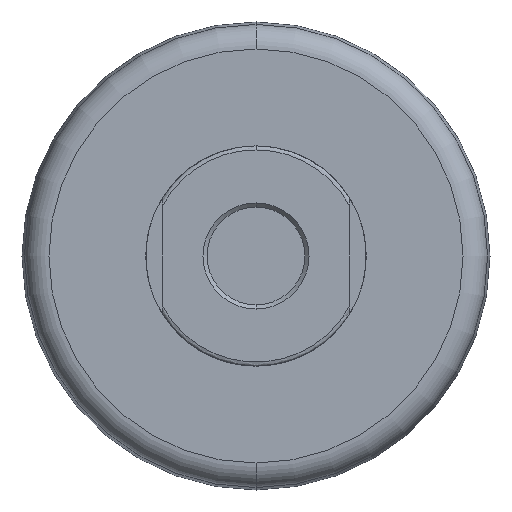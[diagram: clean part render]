
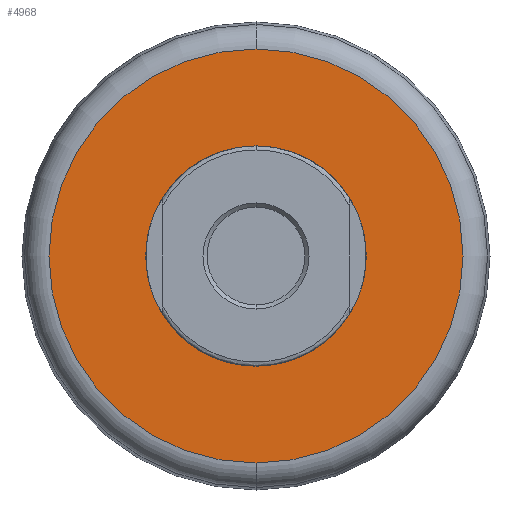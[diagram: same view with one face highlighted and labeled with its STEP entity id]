
A CAD part, front view. The second image highlights one B-rep face of the part: STEP entity #4968.
In plain terms, the highlighted planar face has unit normal (0, -1, 0).
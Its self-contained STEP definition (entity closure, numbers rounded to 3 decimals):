
#190 = ORIENTED_EDGE ( 'NONE', *, *, #1521, .T. ) ;
#398 = CARTESIAN_POINT ( 'NONE',  ( 0., 12., -27. ) ) ;
#495 = CIRCLE ( 'NONE', #4973, 27. ) ;
#720 = EDGE_LOOP ( 'NONE', ( #4416, #1396 ) ) ;
#745 = DIRECTION ( 'NONE',  ( 0., 1., 0. ) ) ;
#871 = DIRECTION ( 'NONE',  ( 0., 1., 0. ) ) ;
#1223 = FACE_OUTER_BOUND ( 'NONE', #720, .T. ) ;
#1258 = ORIENTED_EDGE ( 'NONE', *, *, #3892, .T. ) ;
#1396 = ORIENTED_EDGE ( 'NONE', *, *, #5171, .F. ) ;
#1460 = DIRECTION ( 'NONE',  ( 0., 1., 0. ) ) ;
#1521 = EDGE_CURVE ( 'NONE', #2700, #3526, #495, .T. ) ;
#1810 = DIRECTION ( 'NONE',  ( 0., 0., -1. ) ) ;
#2242 = AXIS2_PLACEMENT_3D ( 'NONE', #3989, #4412, #1810 ) ;
#2309 = DIRECTION ( 'NONE',  ( 0., 0., 1. ) ) ;
#2440 = CARTESIAN_POINT ( 'NONE',  ( 0., 12., 0. ) ) ;
#2519 = DIRECTION ( 'NONE',  ( 0., 0., 1. ) ) ;
#2542 = DIRECTION ( 'NONE',  ( 0., 0., 1. ) ) ;
#2571 = AXIS2_PLACEMENT_3D ( 'NONE', #2440, #1460, #2542 ) ;
#2700 = VERTEX_POINT ( 'NONE', #4058 ) ;
#2840 = DIRECTION ( 'NONE',  ( 0., 1., 0. ) ) ;
#2981 = CARTESIAN_POINT ( 'NONE',  ( 0., 12., 0. ) ) ;
#3414 = CARTESIAN_POINT ( 'NONE',  ( 0., 12., 0. ) ) ;
#3526 = VERTEX_POINT ( 'NONE', #398 ) ;
#3892 = EDGE_CURVE ( 'NONE', #3526, #2700, #6812, .T. ) ;
#3926 = FACE_BOUND ( 'NONE', #6824, .T. ) ;
#3989 = CARTESIAN_POINT ( 'NONE',  ( -27., 12., 0. ) ) ;
#4058 = CARTESIAN_POINT ( 'NONE',  ( 0., 12., 27. ) ) ;
#4412 = DIRECTION ( 'NONE',  ( 0., -1., 0. ) ) ;
#4416 = ORIENTED_EDGE ( 'NONE', *, *, #5890, .F. ) ;
#4584 = CIRCLE ( 'NONE', #2571, 50.75 ) ;
#4803 = VERTEX_POINT ( 'NONE', #6417 ) ;
#4847 = DIRECTION ( 'NONE',  ( 0., 0., 1. ) ) ;
#4968 = ADVANCED_FACE ( 'NONE', ( #3926, #1223 ), #5005, .T. ) ;
#4973 = AXIS2_PLACEMENT_3D ( 'NONE', #5572, #2840, #2309 ) ;
#5005 = PLANE ( 'NONE',  #2242 ) ;
#5028 = CIRCLE ( 'NONE', #6375, 50.75 ) ;
#5171 = EDGE_CURVE ( 'NONE', #4803, #6045, #4584, .T. ) ;
#5572 = CARTESIAN_POINT ( 'NONE',  ( 0., 12., 0. ) ) ;
#5747 = CARTESIAN_POINT ( 'NONE',  ( 0., 12., 50.75 ) ) ;
#5890 = EDGE_CURVE ( 'NONE', #6045, #4803, #5028, .T. ) ;
#6045 = VERTEX_POINT ( 'NONE', #5747 ) ;
#6375 = AXIS2_PLACEMENT_3D ( 'NONE', #3414, #745, #4847 ) ;
#6417 = CARTESIAN_POINT ( 'NONE',  ( 0., 12., -50.75 ) ) ;
#6812 = CIRCLE ( 'NONE', #6920, 27. ) ;
#6824 = EDGE_LOOP ( 'NONE', ( #190, #1258 ) ) ;
#6920 = AXIS2_PLACEMENT_3D ( 'NONE', #2981, #871, #2519 ) ;
